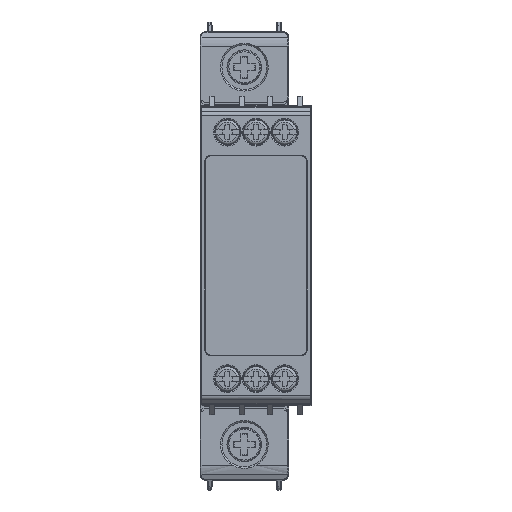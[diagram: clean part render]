
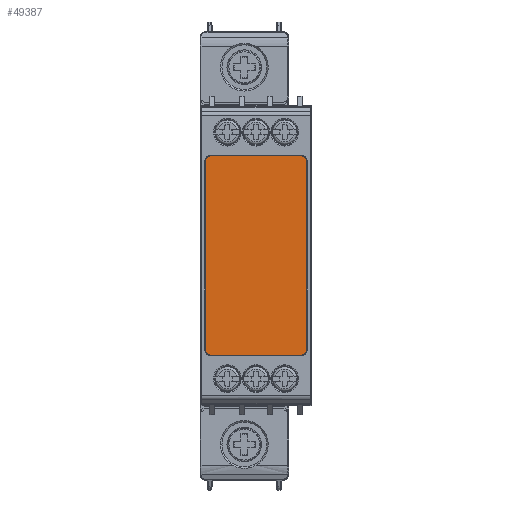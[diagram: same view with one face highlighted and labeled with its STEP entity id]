
A CAD part, top view. The second image highlights one B-rep face of the part: STEP entity #49387.
In plain terms, the highlighted planar face has unit normal (0, 0, 1).
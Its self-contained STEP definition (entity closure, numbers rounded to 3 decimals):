
#36244=CARTESIAN_POINT('',(12.5,19.,162.6));
#36245=VERTEX_POINT('',#36244);
#36246=CARTESIAN_POINT('',(12.5,-19.,162.6));
#36247=VERTEX_POINT('',#36246);
#36248=CARTESIAN_POINT('',(12.5,19.,162.6));
#36249=DIRECTION('',(0.0,-1.0,0.0));
#36250=VECTOR('',#36249,38.);
#36251=LINE('',#36248,#36250);
#36252=EDGE_CURVE('',#36245,#36247,#36251,.T.);
#37205=CARTESIAN_POINT('',(11.5,-20.,162.6));
#37206=VERTEX_POINT('',#37205);
#37207=CARTESIAN_POINT('',(11.5,-19.,162.6));
#37208=DIRECTION('',(0.,0.,-1.0));
#37209=DIRECTION('',(0.707,-0.707,0.));
#37210=AXIS2_PLACEMENT_3D('',#37207,#37208,#37209);
#37211=CIRCLE('',#37210,1.0);
#37212=EDGE_CURVE('',#36247,#37206,#37211,.T.);
#37228=CARTESIAN_POINT('',(11.5,20.,162.6));
#37229=VERTEX_POINT('',#37228);
#37230=CARTESIAN_POINT('',(11.5,19.,162.6));
#37231=DIRECTION('',(0.,0.,1.0));
#37232=DIRECTION('',(0.707,0.707,0.));
#37233=AXIS2_PLACEMENT_3D('',#37230,#37231,#37232);
#37234=CIRCLE('',#37233,1.0);
#37235=EDGE_CURVE('',#36245,#37229,#37234,.T.);
#47061=CARTESIAN_POINT('',(-6.8,-20.,162.6));
#47062=VERTEX_POINT('',#47061);
#47069=CARTESIAN_POINT('',(-7.8,-19.,162.6));
#47070=VERTEX_POINT('',#47069);
#47071=CARTESIAN_POINT('',(-6.8,-19.,162.6));
#47072=DIRECTION('',(0.,0.,1.0));
#47073=DIRECTION('',(-0.707,-0.707,0.));
#47074=AXIS2_PLACEMENT_3D('',#47071,#47072,#47073);
#47075=CIRCLE('',#47074,1.0);
#47076=EDGE_CURVE('',#47070,#47062,#47075,.T.);
#47099=CARTESIAN_POINT('',(-6.8,-20.,162.6));
#47100=DIRECTION('',(1.0,0.0,0.0));
#47101=VECTOR('',#47100,18.3);
#47102=LINE('',#47099,#47101);
#47103=EDGE_CURVE('',#47062,#37206,#47102,.T.);
#48215=CARTESIAN_POINT('',(-7.8,19.,162.6));
#48216=VERTEX_POINT('',#48215);
#48217=CARTESIAN_POINT('',(-7.8,-19.,162.6));
#48218=DIRECTION('',(0.0,1.0,0.0));
#48219=VECTOR('',#48218,38.);
#48220=LINE('',#48217,#48219);
#48221=EDGE_CURVE('',#47070,#48216,#48220,.T.);
#49140=CARTESIAN_POINT('',(-6.8,20.,162.6));
#49141=VERTEX_POINT('',#49140);
#49142=CARTESIAN_POINT('',(-6.8,19.,162.6));
#49143=DIRECTION('',(0.,0.,-1.0));
#49144=DIRECTION('',(-0.707,0.707,0.));
#49145=AXIS2_PLACEMENT_3D('',#49142,#49143,#49144);
#49146=CIRCLE('',#49145,1.0);
#49147=EDGE_CURVE('',#48216,#49141,#49146,.T.);
#49170=CARTESIAN_POINT('',(11.5,20.,162.6));
#49171=DIRECTION('',(-1.0,0.0,0.0));
#49172=VECTOR('',#49171,18.3);
#49173=LINE('',#49170,#49172);
#49174=EDGE_CURVE('',#37229,#49141,#49173,.T.);
#49372=CARTESIAN_POINT('',(6.35,0.,162.6));
#49373=DIRECTION('',(0.0,0.0,1.0));
#49374=DIRECTION('',(-1.0,0.0,0.0));
#49375=AXIS2_PLACEMENT_3D('',#49372,#49373,#49374);
#49376=PLANE('',#49375);
#49377=ORIENTED_EDGE('',*,*,#37212,.F.);
#49378=ORIENTED_EDGE('',*,*,#36252,.F.);
#49379=ORIENTED_EDGE('',*,*,#37235,.T.);
#49380=ORIENTED_EDGE('',*,*,#49174,.T.);
#49381=ORIENTED_EDGE('',*,*,#49147,.F.);
#49382=ORIENTED_EDGE('',*,*,#48221,.F.);
#49383=ORIENTED_EDGE('',*,*,#47076,.T.);
#49384=ORIENTED_EDGE('',*,*,#47103,.T.);
#49385=EDGE_LOOP('',(#49377,#49378,#49379,#49380,#49381,#49382,#49383,#49384));
#49386=FACE_OUTER_BOUND('',#49385,.T.);
#49387=ADVANCED_FACE('',(#49386),#49376,.T.);
